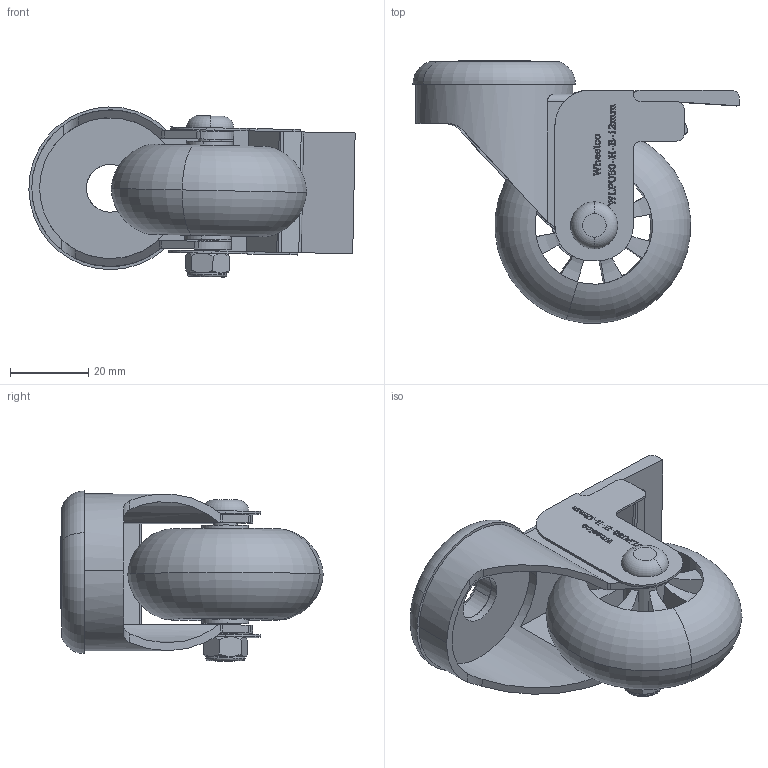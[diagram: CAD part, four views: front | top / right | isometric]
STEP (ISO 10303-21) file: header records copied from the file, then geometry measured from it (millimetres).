
FILE_DESCRIPTION (( 'STEP AP214' ), '1' );
FILE_NAME ('WLPU50-H-B-12MM.step', '2024-01-18T00:22:09', ( '' ), ( '' ), 'SwSTEP 2.0', 'SolidWorks 2022', '' );
FILE_SCHEMA (( 'AUTOMOTIVE_DESIGN' ));
Length unit declared in the file: millimetre
Products named in the file (7): WLPU50-H-B-12MM; WL50-H-B-12; BREAK BRACKET; WL bolt 40mm-6mm dia; 41.5 CAP 12; M6 NUT; WLPU50
Assembly tree (6 placements, depth 2):
  WLPU50-H-B-12MM
    WL50-H-B-12
    BREAK BRACKET
    M6 NUT
    WLPU50
    41.5 CAP 12
    WL bolt 40mm-6mm dia
Bounding box: 83.22 x 66.94 x 43.39 mm (x, y, z)
Volume: 49044 mm3; surface area: 31694.7 mm2
Topology: 7 solids, 7 shells, 779 faces, 2130 edges, 1400 vertices
Faces by surface type: plane 440, bspline 186, cylinder 101, torus 36, cone 14, sphere 2
Entity records: 37243 total; most frequent: CARTESIAN_POINT 18303, ORIENTED_EDGE 4256, DIRECTION 3100, EDGE_CURVE 2128, LINE 1402, VECTOR 1402, VERTEX_POINT 1400, AXIS2_PLACEMENT_3D 849
